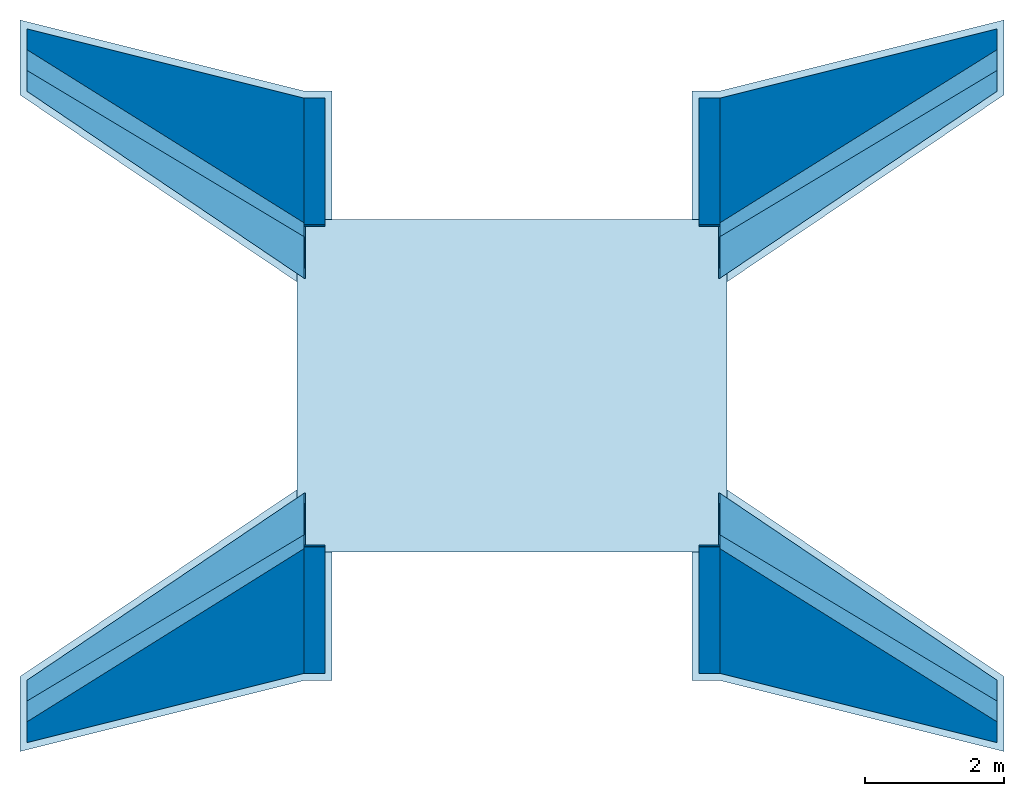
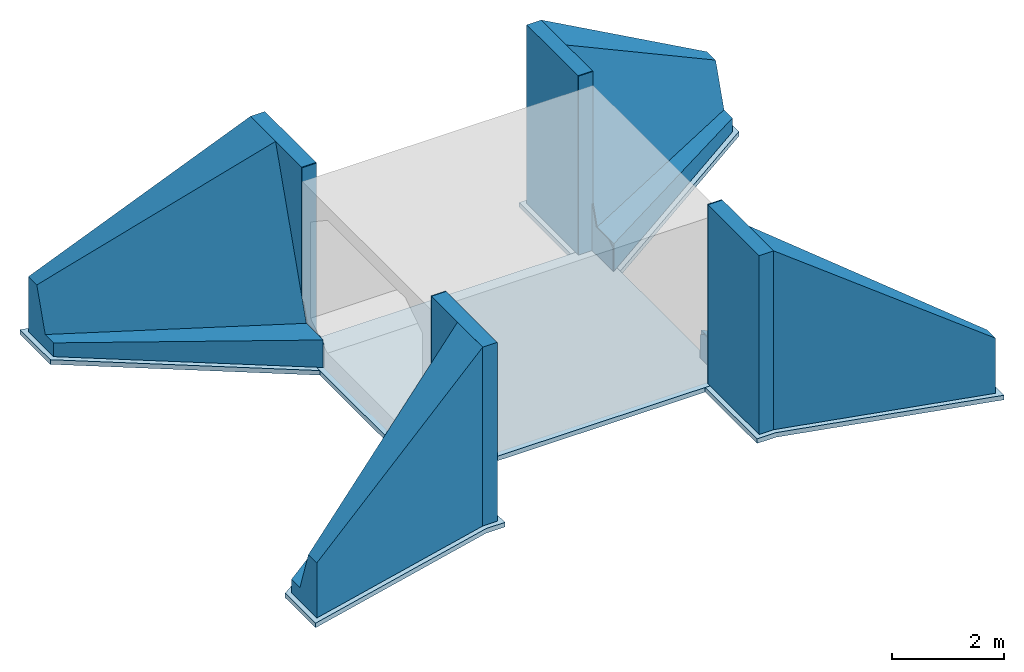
# One storey, part 1 of 2: 12 walls, 5 slabs.
"""IFC2X3 building model written with IfcOpenShell, lengths in metres."""

from ifc_helpers import new_model, entity, si_unit, converted_unit, derived_unit, direction, frame, frame_2d, origin, place, context, subcontext, project, spatial, polyline, rectangle, outline, extrude, faceted_brep, material, layer, layer_set, layer_usage, type_object, element, save


model = new_model("IFC2X3")

# Units and contexts
model_context = context("Model", 3, precision=1e-05, world=origin(), true_north=direction((6.12303176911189e-17, 1.0)))
body_context = subcontext(model_context, "Body", "Model", "MODEL_VIEW")
ifc_project = project(units=[si_unit("LENGTHUNIT", "METRE"), si_unit("AREAUNIT", "SQUARE_METRE"), si_unit("VOLUMEUNIT", "CUBIC_METRE"), converted_unit("PLANEANGLEUNIT", "DEGREE", entity("IfcRatioMeasure", 0.0174532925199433), si_unit("PLANEANGLEUNIT", "RADIAN"), dimensions=[0, 0, 0, 0, 0, 0, 0]), si_unit("MASSUNIT", "GRAM", prefix="KILO"), derived_unit("MASSDENSITYUNIT", [(si_unit("MASSUNIT", "GRAM", prefix="KILO"), 1), (si_unit("LENGTHUNIT", "METRE"), -3)]), si_unit("TIMEUNIT", "SECOND"), si_unit("FREQUENCYUNIT", "HERTZ"), si_unit("THERMODYNAMICTEMPERATUREUNIT", "DEGREE_CELSIUS"), derived_unit("THERMALTRANSMITTANCEUNIT", [(si_unit("MASSUNIT", "GRAM", prefix="KILO"), 1), (si_unit("THERMODYNAMICTEMPERATUREUNIT", "KELVIN"), -1), (si_unit("TIMEUNIT", "SECOND"), -3)]), derived_unit("VOLUMETRICFLOWRATEUNIT", [(si_unit("LENGTHUNIT", "METRE"), 3), (si_unit("TIMEUNIT", "SECOND"), -1)]), si_unit("ELECTRICCURRENTUNIT", "AMPERE"), si_unit("ELECTRICVOLTAGEUNIT", "VOLT"), si_unit("POWERUNIT", "WATT"), si_unit("FORCEUNIT", "NEWTON", prefix="KILO"), si_unit("ILLUMINANCEUNIT", "LUX"), si_unit("LUMINOUSFLUXUNIT", "LUMEN"), si_unit("LUMINOUSINTENSITYUNIT", "CANDELA"), derived_unit("USERDEFINED", [(si_unit("MASSUNIT", "GRAM", prefix="KILO"), -1), (si_unit("LENGTHUNIT", "METRE"), -2), (si_unit("TIMEUNIT", "SECOND"), 3), (si_unit("LUMINOUSFLUXUNIT", "LUMEN"), 1)]), derived_unit("LINEARVELOCITYUNIT", [(si_unit("LENGTHUNIT", "METRE"), 1), (si_unit("TIMEUNIT", "SECOND"), -1)]), si_unit("PRESSUREUNIT", "PASCAL"), derived_unit("USERDEFINED", [(si_unit("LENGTHUNIT", "METRE"), -2), (si_unit("MASSUNIT", "GRAM", prefix="KILO"), 1), (si_unit("TIMEUNIT", "SECOND"), -2)])], contexts=[model_context])

# Site, building, storey
site_placement = place(None, origin())
site = spatial("IfcSite", under=ifc_project, at=site_placement, Name="Default", CompositionType="ELEMENT")
building_placement = place(site_placement, origin())
building = spatial("IfcBuilding", under=site, at=building_placement, CompositionType="ELEMENT")
storey_placement = place(building_placement, origin())
storey = spatial("IfcBuildingStorey", under=building, at=storey_placement, Name="Fondation Arase inférieur", CompositionType="ELEMENT", Elevation=0.0)

# Slabs
ifc_material_1 = material(Name="Béton, C20/25")
ifc_layer_1 = layer(ifc_material_1, 0.1)
ifc_layer_set_1 = layer_set([ifc_layer_1], Name="Sol:Béton de propreté")
ifc_layer_usage_1 = layer_usage(ifc_layer_set_1, "AXIS3", "POSITIVE", 0.0)
slab_type_1 = type_object("IfcSlabType", Name="Sol:Béton de propreté", PredefinedType="FLOOR", material=ifc_layer_set_1)
slab_1_placement = place(storey_placement, origin())
element("IfcSlab", 1, at=slab_1_placement, inside=storey, type_object=slab_type_1, material=ifc_layer_usage_1, Name="Sol:Béton de propreté", ObjectType="Sol:Béton de propreté", PredefinedType="FLOOR", context=body_context, shape_type="SweptSolid", body=[
    extrude(outline(polyline([(-1.81068063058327, -3.01604436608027), (-0.729453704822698, -3.01604436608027), (1.9705462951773, 0.983955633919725), (1.06739701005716, 0.983955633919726), (1.06739701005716, 1.48395563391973), (-0.782602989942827, 1.48395563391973), (-0.782602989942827, 1.09626619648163), (-1.81068063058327, -3.01604436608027)])), frame((-0.375141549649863, -3.74099874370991, 0.0), z_axis=(0.0, 0.0, -1.0), x_axis=(0.0, 1.0, 0.0)), (0.0, 0.0, 1.0), 0.1),
])
ifc_layer_usage_2 = layer_usage(ifc_layer_set_1, "AXIS3", "POSITIVE", 0.0)
slab_type_2 = type_object("IfcSlabType", Name="Sol:Béton de propreté", PredefinedType="FLOOR", material=ifc_layer_set_1)
slab_2_placement = place(storey_placement, origin())
element("IfcSlab", 2, at=slab_2_placement, inside=storey, type_object=slab_type_2, material=ifc_layer_usage_2, Name="Sol:Béton de propreté", ObjectType="Sol:Béton de propreté", PredefinedType="FLOOR", context=body_context, shape_type="SweptSolid", body=[
    extrude(rectangle(XDim=4.8, YDim=6.2, at=frame_2d((2.22044604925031e-16, 0.0), x_axis=(1.0, 0.0))), frame((3.70881408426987, -0.273601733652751, 0.0), z_axis=(0.0, 0.0, -1.0), x_axis=(0.0, 1.0, 0.0)), (0.0, 0.0, 1.0), 0.1),
])
ifc_layer_usage_3 = layer_usage(ifc_layer_set_1, "AXIS3", "POSITIVE", 0.0)
slab_type_3 = type_object("IfcSlabType", Name="Sol:Béton de propreté", PredefinedType="FLOOR", material=ifc_layer_set_1)
slab_3_placement = place(storey_placement, origin())
element("IfcSlab", 3, at=slab_3_placement, inside=storey, type_object=slab_type_3, material=ifc_layer_usage_3, Name="Sol:Béton de propreté", ObjectType="Sol:Béton de propreté", PredefinedType="FLOOR", context=body_context, shape_type="SweptSolid", body=[
    extrude(outline(polyline([(-0.782602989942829, -1.48395563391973), (1.06739701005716, -1.48395563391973), (1.06739701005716, -0.983955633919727), (1.9705462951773, -0.983955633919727), (-0.729453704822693, 3.01604436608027), (-1.81068063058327, 3.01604436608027), (-0.782602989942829, -1.09626619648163), (-0.782602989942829, -1.48395563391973)])), frame((7.7927697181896, -3.74099874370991, 0.0), z_axis=(0.0, 0.0, -1.0), x_axis=(0.0, 1.0, 0.0)), (0.0, 0.0, 1.0), 0.1),
])
ifc_layer_usage_4 = layer_usage(ifc_layer_set_1, "AXIS3", "POSITIVE", 0.0)
slab_type_4 = type_object("IfcSlabType", Name="Sol:Béton de propreté", PredefinedType="FLOOR", material=ifc_layer_set_1)
slab_4_placement = place(storey_placement, origin())
element("IfcSlab", 4, at=slab_4_placement, inside=storey, type_object=slab_type_4, material=ifc_layer_usage_4, Name="Sol:Béton de propreté", ObjectType="Sol:Béton de propreté", PredefinedType="FLOOR", context=body_context, shape_type="SweptSolid", body=[
    extrude(outline(polyline([(0.729453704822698, -3.01604436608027), (1.81068063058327, -3.01604436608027), (0.782602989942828, 1.09626619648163), (0.782602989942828, 1.48395563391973), (-1.06739701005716, 1.48395563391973), (-1.06739701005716, 0.983955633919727), (-1.9705462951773, 0.983955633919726), (0.729453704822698, -3.01604436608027)])), frame((-0.375141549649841, 3.19379527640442, 0.0), z_axis=(0.0, 0.0, -1.0), x_axis=(0.0, 1.0, 0.0)), (0.0, 0.0, 1.0), 0.1),
])
ifc_layer_usage_5 = layer_usage(ifc_layer_set_1, "AXIS3", "POSITIVE", 0.0)
slab_type_5 = type_object("IfcSlabType", Name="Sol:Béton de propreté", PredefinedType="FLOOR", material=ifc_layer_set_1)
slab_5_placement = place(storey_placement, origin())
element("IfcSlab", 5, at=slab_5_placement, inside=storey, type_object=slab_type_5, material=ifc_layer_usage_5, Name="Sol:Béton de propreté", ObjectType="Sol:Béton de propreté", PredefinedType="FLOOR", context=body_context, shape_type="SweptSolid", body=[
    extrude(outline(polyline([(-1.06739701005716, -1.48395563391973), (0.78260298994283, -1.48395563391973), (0.78260298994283, -1.09626619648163), (1.81068063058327, 3.01604436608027), (0.729453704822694, 3.01604436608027), (-1.9705462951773, -0.983955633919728), (-1.06739701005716, -0.983955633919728), (-1.06739701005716, -1.48395563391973)])), frame((7.79276971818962, 3.19379527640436, 0.0), z_axis=(0.0, 0.0, -1.0), x_axis=(0.0, 1.0, 0.0)), (0.0, 0.0, 1.0), 0.1),
])

# Walls
ifc_material_2 = material(Name="Béton, C35/45 G+S")
ifc_layer_2 = layer(ifc_material_2, 0.3)
ifc_layer_set_2 = layer_set([ifc_layer_2], Name="Mur de base:Mur en retour")
ifc_layer_usage_6 = layer_usage(ifc_layer_set_2, "AXIS2", "NEGATIVE", 0.15)
wall_type_1 = type_object("IfcWallType", Name="Mur de base:Mur en retour", PredefinedType="STANDARD", material=ifc_layer_set_2)
wall_1_placement = place(storey_placement, frame((6.55881408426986, 3.87639826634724, 0.0), z_axis=(0.0, 0.0, 1.0), x_axis=(0.0, -1.0, 0.0)))
element("IfcWallStandardCase", 6, at=wall_1_placement, inside=storey, type_object=wall_type_1, material=ifc_layer_usage_6, Name="Mur de base:Mur en retour", ObjectType="Mur de base:Mur en retour", context=body_context, shape_type="SweptSolid", body=[
    extrude(rectangle(XDim=1.83000000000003, YDim=0.299999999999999, at=frame_2d((0.915000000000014, -1.66533453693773e-16), x_axis=(-1.0, 0.0))), origin(), (0.0, 0.0, 1.0), 3.9),
])
ifc_layer_usage_7 = layer_usage(ifc_layer_set_2, "AXIS2", "POSITIVE", -0.15)
wall_2_placement = place(storey_placement, frame((0.858814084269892, 3.87639826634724, 0.0), z_axis=(0.0, 0.0, 1.0), x_axis=(0.0, -1.0, 0.0)))
element("IfcWallStandardCase", 7, at=wall_2_placement, inside=storey, type_object=wall_type_1, material=ifc_layer_usage_7, Name="Mur de base:Mur en retour", ObjectType="Mur de base:Mur en retour", context=body_context, shape_type="SweptSolid", body=[
    extrude(rectangle(XDim=1.82999999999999, YDim=0.3, at=frame_2d((0.914999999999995, -4.16333634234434e-17), x_axis=(-1.0, 0.0))), origin(), (0.0, 0.0, 1.0), 3.9),
])
ifc_layer_usage_8 = layer_usage(ifc_layer_set_2, "AXIS2", "POSITIVE", -0.15)
wall_3_placement = place(storey_placement, frame((6.55881408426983, -4.42360173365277, 0.0), z_axis=(0.0, 0.0, 1.0), x_axis=(0.0, 1.0, 0.0)))
element("IfcWallStandardCase", 8, at=wall_3_placement, inside=storey, type_object=wall_type_1, material=ifc_layer_usage_8, Name="Mur de base:Mur en retour", ObjectType="Mur de base:Mur en retour", context=body_context, shape_type="SweptSolid", body=[
    extrude(rectangle(XDim=1.83000000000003, YDim=0.299999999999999, at=frame_2d((0.915000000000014, 1.2490009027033e-16), x_axis=(-1.0, 0.0))), origin(), (0.0, 0.0, 1.0), 3.9),
])
ifc_layer_usage_9 = layer_usage(ifc_layer_set_2, "AXIS2", "NEGATIVE", 0.15)
wall_4_placement = place(storey_placement, frame((0.858814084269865, -4.42360173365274, 0.0), z_axis=(0.0, 0.0, 1.0), x_axis=(0.0, 1.0, 0.0)))
element("IfcWallStandardCase", 9, at=wall_4_placement, inside=storey, type_object=wall_type_1, material=ifc_layer_usage_9, Name="Mur de base:Mur en retour", ObjectType="Mur de base:Mur en retour", context=body_context, shape_type="SweptSolid", body=[
    extrude(rectangle(XDim=1.82999999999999, YDim=0.3, at=frame_2d((0.914999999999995, -2.77555756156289e-17), x_axis=(-1.0, 0.0))), origin(), (0.0, 0.0, 1.0), 3.9),
])
ifc_material_3 = material(Name="Mur par défaut")
wall_type_2 = type_object("IfcWallType", Name="Mur en aile 1", PredefinedType="NOTDEFINED", material=ifc_material_3)
wall_5_placement = place(storey_placement, frame((6.70881408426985, 1.27639826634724, 0.0)))
element("IfcWall", 10, at=wall_5_placement, inside=storey, type_object=wall_type_2, material=ifc_material_3, Name="Mur en aile 1:Mur en aile 1", ObjectType="Mur en aile 1:Mur en aile 1", context=body_context, shape_type="Brep", body=[
    faceted_brep([(4.0, 3.6, 1.2), (4.0, 3.30000000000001, 1.19999999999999), (4.0, 3.0, 0.30000000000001), (4.0, 2.70000000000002, 0.300000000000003), (4.0, 2.70000000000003, 0.0), (4.0, 3.60000000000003, 0.0), (0.0, 2.59999999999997, 3.9), (0.0, 2.6, 0.0), (0.0, 0.769999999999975, 0.0), (0.0, 0.0, 0.0), (0.0, 0.0, 0.600000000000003), (0.0, 0.600000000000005, 0.60000000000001), (0.0, 1.7, 3.9)], [[[0, 1, 2, 3, 4, 5]], [[6, 7, 8, 9, 10, 11, 12]], [[6, 12, 1, 0]], [[12, 11, 2, 1]], [[11, 10, 3, 2]], [[10, 9, 4, 3]], [[9, 8, 7, 5, 4]], [[7, 6, 0, 5]]]),
])
wall_type_3 = type_object("IfcWallType", Name="Mur en aile 1", PredefinedType="NOTDEFINED", material=ifc_material_3)
wall_6_placement = place(storey_placement, frame((-3.29118591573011, 1.27639826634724, 0.0)))
element("IfcWall", 11, at=wall_6_placement, inside=storey, type_object=wall_type_3, material=ifc_material_3, Name="Mur en aile 2:Mur en aile 1", ObjectType="Mur en aile 2:Mur en aile 1", context=body_context, shape_type="Brep", body=[
    faceted_brep([(0.0, 3.6, 1.2), (0.0, 3.60000000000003, 0.0), (0.0, 2.70000000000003, 0.0), (0.0, 2.70000000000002, 0.300000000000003), (0.0, 3.0, 0.30000000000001), (0.0, 3.30000000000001, 1.19999999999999), (4.0, 2.6, 3.90000000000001), (4.0, 1.7, 3.90000000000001), (4.0, 0.600000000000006, 0.600000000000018), (4.0, 0.0, 0.600000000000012), (4.0, 0.0, 0.0), (4.0, 0.770000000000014, 0.0), (4.0, 2.60000000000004, 0.0)], [[[0, 1, 2, 3, 4, 5]], [[6, 7, 8, 9, 10, 11, 12]], [[7, 6, 0, 5]], [[8, 7, 5, 4]], [[9, 8, 4, 3]], [[10, 9, 3, 2]], [[12, 11, 10, 2, 1]], [[6, 12, 1, 0]]]),
])
wall_type_4 = type_object("IfcWallType", Name="Mur en aile 1", PredefinedType="NOTDEFINED", material=ifc_material_3)
wall_7_placement = place(storey_placement, frame((6.70881408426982, -5.42360173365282, 0.0)))
element("IfcWall", 12, at=wall_7_placement, inside=storey, type_object=wall_type_4, material=ifc_material_3, Name="Mur en aile 3:Mur en aile 1", ObjectType="Mur en aile 3:Mur en aile 1", context=body_context, shape_type="Brep", body=[
    faceted_brep([(4.0, 0.0, 1.2), (4.0, 0.0, 0.0), (4.0, 0.9, 0.0), (4.0, 0.900000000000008, 0.300000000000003), (4.0, 0.600000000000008, 0.30000000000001), (4.0, 0.300000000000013, 1.19999999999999), (0.0, 1.0, 3.90000000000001), (0.0, 1.90000000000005, 3.90000000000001), (0.0, 3.0, 0.600000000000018), (0.0, 3.60000000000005, 0.600000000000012), (0.0, 3.60000000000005, 0.0), (0.0, 2.83000000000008, 0.0), (0.0, 1.0, 0.0)], [[[0, 1, 2, 3, 4, 5]], [[6, 7, 8, 9, 10, 11, 12]], [[7, 6, 0, 5]], [[8, 7, 5, 4]], [[9, 8, 4, 3]], [[10, 9, 3, 2]], [[12, 11, 10, 2, 1]], [[6, 12, 1, 0]]]),
])
wall_type_5 = type_object("IfcWallType", Name="Mur en aile 1", PredefinedType="NOTDEFINED", material=ifc_material_3)
wall_8_placement = place(storey_placement, frame((-3.29118591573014, -5.42360173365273, 0.0)))
element("IfcWall", 13, at=wall_8_placement, inside=storey, type_object=wall_type_5, material=ifc_material_3, Name="Mur en aile 4:Mur en aile 1", ObjectType="Mur en aile 4:Mur en aile 1", context=body_context, shape_type="Brep", body=[
    faceted_brep([(0.0, 0.0, 1.2), (0.0, 0.300000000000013, 1.19999999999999), (0.0, 0.600000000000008, 0.30000000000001), (0.0, 0.900000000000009, 0.300000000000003), (0.0, 0.9, 0.0), (0.0, 0.0, 0.0), (4.0, 1.0, 3.9), (4.0, 1.0, 0.0), (4.0, 2.82999999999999, 0.0), (4.0, 3.59999999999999, 0.0), (4.0, 3.6, 0.600000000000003), (4.0, 3.0, 0.60000000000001), (4.0, 1.9, 3.9)], [[[0, 1, 2, 3, 4, 5]], [[6, 7, 8, 9, 10, 11, 12]], [[6, 12, 1, 0]], [[12, 11, 2, 1]], [[11, 10, 3, 2]], [[10, 9, 4, 3]], [[9, 8, 7, 5, 4]], [[7, 6, 0, 5]]]),
])
wall_type_6 = type_object("IfcWallType", Name="Joint sec (Cadre mur en retour)", PredefinedType="NOTDEFINED", material=ifc_material_3)
wall_9_placement = place(storey_placement, frame((0.708814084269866, -2.59360173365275, 0.0), z_axis=(0.0, 0.0, 1.0), x_axis=(0.0, 1.0, 0.0)))
element("IfcWall", 14, at=wall_9_placement, inside=storey, type_object=wall_type_6, material=ifc_material_3, Name="Joint sec (Cadre mur en retour):Joint sec (Cadre mur en retour)", ObjectType="Joint sec (Cadre mur en retour):Joint sec (Cadre mur en retour)", context=body_context, shape_type="Brep", body=[
    faceted_brep([(0.0, 0.0, 0.0), (0.0, 0.0, 3.9), (0.0200000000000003, 0.0, 3.9), (0.0200000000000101, 0.0, 1.05000000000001), (0.170000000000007, 0.0, 0.600000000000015), (0.619999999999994, 0.0, 0.600000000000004), (0.770000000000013, 0.0, 0.499999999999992), (0.770000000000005, 0.0, 0.0), (0.0199999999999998, -0.300000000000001, 3.9), (0.0, -0.300000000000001, 3.9), (0.0, -0.300000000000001, 0.0), (0.0199999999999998, -0.300000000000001, 0.0), (0.0200000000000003, -0.0200000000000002, 0.0), (0.0200000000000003, -0.0200000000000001, 1.05000000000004), (0.770000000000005, -0.0200000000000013, 0.0), (0.770000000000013, -0.0200000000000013, 0.499999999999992), (0.619999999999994, -0.020000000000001, 0.600000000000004), (0.170000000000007, -0.0200000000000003, 0.600000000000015)], [[[0, 1, 2, 3, 4, 5, 6, 7]], [[8, 9, 10, 11]], [[8, 11, 12, 13, 3, 2]], [[0, 7, 14, 12, 11, 10]], [[1, 0, 10, 9]], [[2, 1, 9, 8]], [[15, 16, 17, 13, 12, 14]], [[7, 6, 15, 14]], [[4, 3, 13, 17]], [[5, 4, 17, 16]], [[6, 5, 16, 15]]]),
])
wall_type_7 = type_object("IfcWallType", Name="Joint sec (Cadre mur en retour)", PredefinedType="NOTDEFINED", material=ifc_material_3)
wall_10_placement = place(storey_placement, frame((6.40881408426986, -2.59360173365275, 0.0), z_axis=(0.0, 0.0, 1.0), x_axis=(0.0, 1.0, 0.0)))
element("IfcWall", 15, at=wall_10_placement, inside=storey, type_object=wall_type_7, material=ifc_material_3, Name="Joint sec (Cadre mur en retour)1:Joint sec (Cadre mur en retour)", ObjectType="Joint sec (Cadre mur en retour)1:Joint sec (Cadre mur en retour)", context=body_context, shape_type="Brep", body=[
    faceted_brep([(0.0200000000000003, -0.300000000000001, 3.9), (0.0, -0.300000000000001, 3.9), (0.0, -0.300000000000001, 0.0), (0.770000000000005, -0.3, 0.0), (0.770000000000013, -0.3, 0.499999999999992), (0.619999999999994, -0.3, 0.600000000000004), (0.170000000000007, -0.300000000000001, 0.600000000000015), (0.0200000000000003, -0.300000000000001, 1.05000000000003), (0.0199999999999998, 0.0, 3.9), (0.0199999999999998, 0.0, 0.0), (0.0, 0.0, 0.0), (0.0, 0.0, 3.9), (0.0200000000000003, -0.280000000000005, 1.05000000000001), (0.0200000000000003, -0.280000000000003, 0.0), (0.770000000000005, -0.280000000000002, 0.0), (0.770000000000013, -0.280000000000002, 0.499999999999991), (0.170000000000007, -0.280000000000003, 0.600000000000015), (0.619999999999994, -0.280000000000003, 0.600000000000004)], [[[0, 1, 2, 3, 4, 5, 6, 7]], [[8, 9, 10, 11]], [[9, 8, 0, 7, 12, 13]], [[3, 2, 10, 9, 13, 14]], [[2, 1, 11, 10]], [[1, 0, 8, 11]], [[15, 14, 13, 12, 16, 17]], [[4, 3, 14, 15]], [[7, 6, 16, 12]], [[6, 5, 17, 16]], [[5, 4, 15, 17]]]),
])
wall_type_8 = type_object("IfcWallType", Name="Joint sec (Cadre mur en retour)", PredefinedType="NOTDEFINED", material=ifc_material_3)
wall_11_placement = place(storey_placement, frame((0.708814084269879, 1.27639826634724, 0.0), z_axis=(0.0, 0.0, 1.0), x_axis=(0.0, 1.0, 0.0)))
element("IfcWall", 16, at=wall_11_placement, inside=storey, type_object=wall_type_8, material=ifc_material_3, Name="Joint sec (Cadre mur en retour)2:Joint sec (Cadre mur en retour)", ObjectType="Joint sec (Cadre mur en retour)2:Joint sec (Cadre mur en retour)", context=body_context, shape_type="Brep", body=[
    faceted_brep([(0.750000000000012, 0.0, 3.9), (0.770000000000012, 0.0, 3.9), (0.770000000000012, 0.0, 0.0), (0.0, 0.0, 0.0), (0.0, 0.0, 0.499999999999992), (0.150000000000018, 0.0, 0.600000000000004), (0.600000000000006, 0.0, 0.600000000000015), (0.750000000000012, 0.0, 1.05000000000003), (0.750000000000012, -0.300000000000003, 3.9), (0.750000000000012, -0.300000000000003, 0.0), (0.770000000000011, -0.300000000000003, 0.0), (0.770000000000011, -0.300000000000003, 3.9), (0.750000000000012, -0.0200000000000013, 1.05000000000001), (0.750000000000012, -0.0200000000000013, 0.0), (0.0, -0.0200000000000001, 0.0), (0.0, -0.0200000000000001, 0.499999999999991), (0.600000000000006, -0.020000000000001, 0.600000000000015), (0.150000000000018, -0.0200000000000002, 0.600000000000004)], [[[0, 1, 2, 3, 4, 5, 6, 7]], [[8, 9, 10, 11]], [[9, 8, 0, 7, 12, 13]], [[3, 2, 10, 9, 13, 14]], [[2, 1, 11, 10]], [[1, 0, 8, 11]], [[15, 14, 13, 12, 16, 17]], [[4, 3, 14, 15]], [[7, 6, 16, 12]], [[6, 5, 17, 16]], [[5, 4, 15, 17]]]),
])
wall_type_9 = type_object("IfcWallType", Name="Joint sec (Cadre mur en retour)", PredefinedType="NOTDEFINED", material=ifc_material_3)
wall_12_placement = place(storey_placement, frame((6.40881408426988, 1.2763982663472, 0.0), z_axis=(0.0, 0.0, 1.0), x_axis=(0.0, 1.0, 0.0)))
element("IfcWall", 17, at=wall_12_placement, inside=storey, type_object=wall_type_9, material=ifc_material_3, Name="Joint sec (Cadre mur en retour)3:Joint sec (Cadre mur en retour)", ObjectType="Joint sec (Cadre mur en retour)3:Joint sec (Cadre mur en retour)", context=body_context, shape_type="Brep", body=[
    faceted_brep([(0.770000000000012, -0.300000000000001, 0.0), (0.770000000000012, -0.300000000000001, 3.9), (0.750000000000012, -0.300000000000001, 3.9), (0.750000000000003, -0.300000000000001, 1.05000000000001), (0.600000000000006, -0.3, 0.600000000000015), (0.150000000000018, -0.299999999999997, 0.600000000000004), (0.0, -0.299999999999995, 0.499999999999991), (0.0, -0.299999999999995, 0.0), (0.750000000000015, 0.0, 3.9), (0.770000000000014, 0.0, 3.9), (0.770000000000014, 0.0, 0.0), (0.750000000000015, 0.0, 0.0), (0.750000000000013, -0.28, 0.0), (0.750000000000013, -0.280000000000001, 1.05000000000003), (0.0, -0.279999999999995, 0.0), (0.0, -0.279999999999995, 0.499999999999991), (0.150000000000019, -0.279999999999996, 0.600000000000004), (0.600000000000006, -0.279999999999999, 0.600000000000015)], [[[0, 1, 2, 3, 4, 5, 6, 7]], [[8, 9, 10, 11]], [[8, 11, 12, 13, 3, 2]], [[0, 7, 14, 12, 11, 10]], [[1, 0, 10, 9]], [[2, 1, 9, 8]], [[15, 16, 17, 13, 12, 14]], [[7, 6, 15, 14]], [[4, 3, 13, 17]], [[5, 4, 17, 16]], [[6, 5, 16, 15]]]),
])

save(model, "model.ifc")
